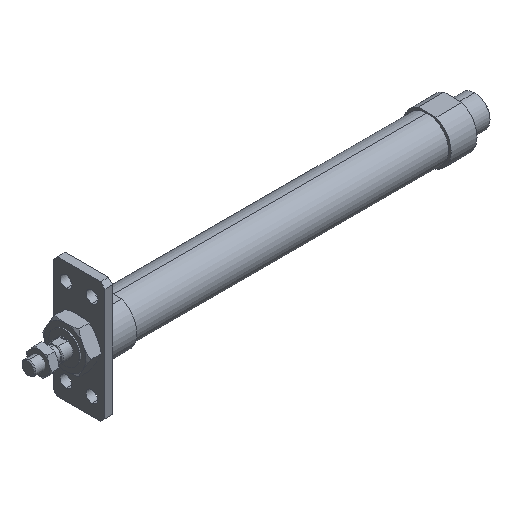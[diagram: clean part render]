
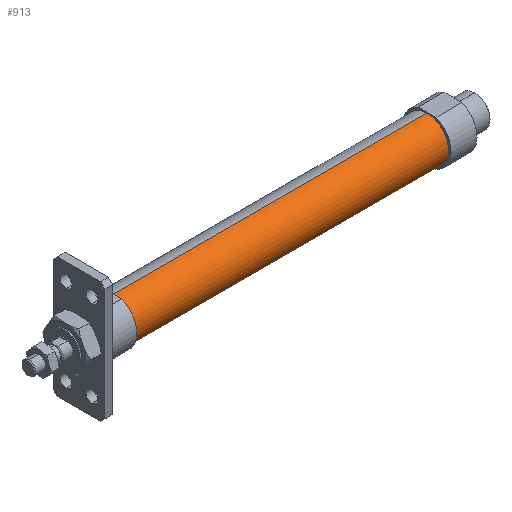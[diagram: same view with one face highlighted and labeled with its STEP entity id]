
A CAD part, isometric view. The second image highlights one B-rep face of the part: STEP entity #913.
In plain terms, the highlighted cylindrical face has radius 12.5 mm (diameter 25 mm), a partial arc.
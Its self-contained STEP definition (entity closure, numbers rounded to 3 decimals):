
#154 = LINE ( 'NONE', #3451, #1154 ) ;
#302 = CARTESIAN_POINT ( 'NONE',  ( 231., 0., -12.5 ) ) ;
#328 = CARTESIAN_POINT ( 'NONE',  ( 231., 0., 12.5 ) ) ;
#338 = EDGE_CURVE ( 'NONE', #1793, #869, #2006, .T. ) ;
#388 = AXIS2_PLACEMENT_3D ( 'NONE', #1356, #3023, #1666 ) ;
#665 = ORIENTED_EDGE ( 'NONE', *, *, #3227, .T. ) ;
#684 = CARTESIAN_POINT ( 'NONE',  ( -6.469, 0., -12.5 ) ) ;
#758 = FACE_OUTER_BOUND ( 'NONE', #1726, .T. ) ;
#869 = VERTEX_POINT ( 'NONE', #1237 ) ;
#913 = ADVANCED_FACE ( 'NONE', ( #758 ), #1739, .T. ) ;
#952 = EDGE_CURVE ( 'NONE', #2045, #1793, #3031, .T. ) ;
#1147 = VECTOR ( 'NONE', #2955, 1000. ) ;
#1150 = DIRECTION ( 'NONE',  ( 0., 0., 1. ) ) ;
#1154 = VECTOR ( 'NONE', #2232, 1000. ) ;
#1237 = CARTESIAN_POINT ( 'NONE',  ( 49., 0., 12.5 ) ) ;
#1356 = CARTESIAN_POINT ( 'NONE',  ( -6.469, 0., 0. ) ) ;
#1448 = CIRCLE ( 'NONE', #1687, 12.5 ) ;
#1666 = DIRECTION ( 'NONE',  ( 0., 0., 1. ) ) ;
#1687 = AXIS2_PLACEMENT_3D ( 'NONE', #2958, #3811, #1150 ) ;
#1726 = EDGE_LOOP ( 'NONE', ( #2798, #2383, #665, #1759 ) ) ;
#1739 = CYLINDRICAL_SURFACE ( 'NONE', #388, 12.5 ) ;
#1759 = ORIENTED_EDGE ( 'NONE', *, *, #338, .F. ) ;
#1793 = VERTEX_POINT ( 'NONE', #1809 ) ;
#1809 = CARTESIAN_POINT ( 'NONE',  ( 49., 0., -12.5 ) ) ;
#1896 = AXIS2_PLACEMENT_3D ( 'NONE', #1927, #2065, #1999 ) ;
#1906 = EDGE_CURVE ( 'NONE', #2045, #3937, #1448, .T. ) ;
#1927 = CARTESIAN_POINT ( 'NONE',  ( 49., 0., 0. ) ) ;
#1999 = DIRECTION ( 'NONE',  ( 0., 0., 1. ) ) ;
#2006 = CIRCLE ( 'NONE', #1896, 12.5 ) ;
#2045 = VERTEX_POINT ( 'NONE', #302 ) ;
#2065 = DIRECTION ( 'NONE',  ( -1., 0., 0. ) ) ;
#2232 = DIRECTION ( 'NONE',  ( -1., 0., 0. ) ) ;
#2383 = ORIENTED_EDGE ( 'NONE', *, *, #1906, .T. ) ;
#2798 = ORIENTED_EDGE ( 'NONE', *, *, #952, .F. ) ;
#2955 = DIRECTION ( 'NONE',  ( -1., 0., 0. ) ) ;
#2958 = CARTESIAN_POINT ( 'NONE',  ( 231., 0., 0. ) ) ;
#3023 = DIRECTION ( 'NONE',  ( -1., 0., 0. ) ) ;
#3031 = LINE ( 'NONE', #684, #1147 ) ;
#3227 = EDGE_CURVE ( 'NONE', #3937, #869, #154, .T. ) ;
#3451 = CARTESIAN_POINT ( 'NONE',  ( -6.469, 0., 12.5 ) ) ;
#3811 = DIRECTION ( 'NONE',  ( -1., 0., 0. ) ) ;
#3937 = VERTEX_POINT ( 'NONE', #328 ) ;
